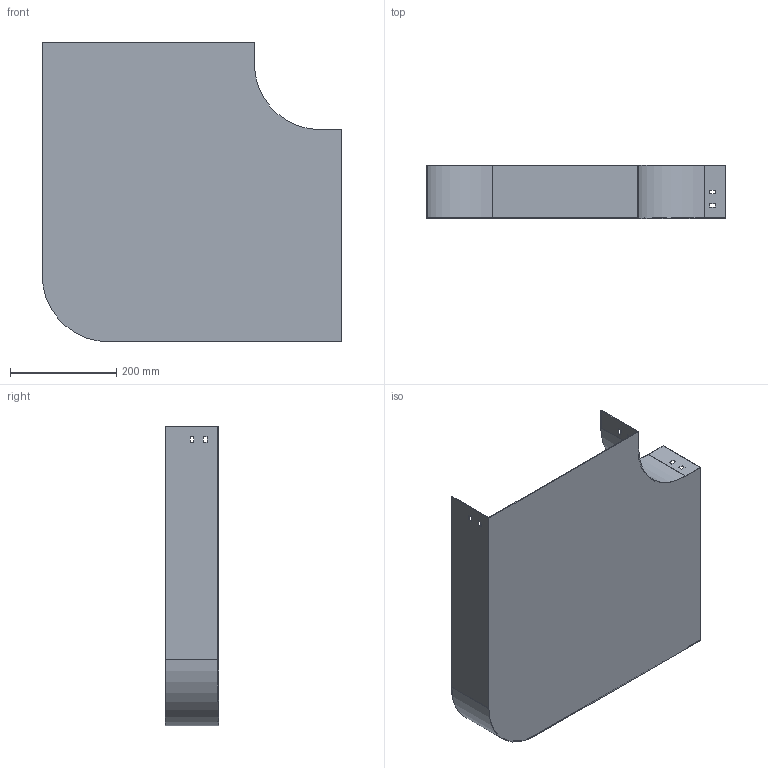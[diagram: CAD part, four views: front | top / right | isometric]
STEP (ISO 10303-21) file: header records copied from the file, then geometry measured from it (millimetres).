
FILE_DESCRIPTION (( 'STEP AP214' ), '1' );
FILE_NAME ('P9_401.step', '2025-07-16T09:20:59', ( '' ), ( '' ), 'SwSTEP 2.0', 'SolidWorks 2023', '' );
FILE_SCHEMA (( 'AUTOMOTIVE_DESIGN' ));
Length unit declared in the file: millimetre
Products named in the file (1): P9_401
Bounding box: 565 x 100 x 565 mm (x, y, z)
Volume: 637021.3 mm3; surface area: 853589.8 mm2
Topology: 1 solids, 1 shells, 50 faces, 144 edges, 96 vertices
Faces by surface type: plane 46, cylinder 4
Entity records: 1671 total; most frequent: CARTESIAN_POINT 291, ORIENTED_EDGE 288, DIRECTION 254, EDGE_CURVE 144, LINE 136, VECTOR 136, VERTEX_POINT 96, EDGE_LOOP 66
